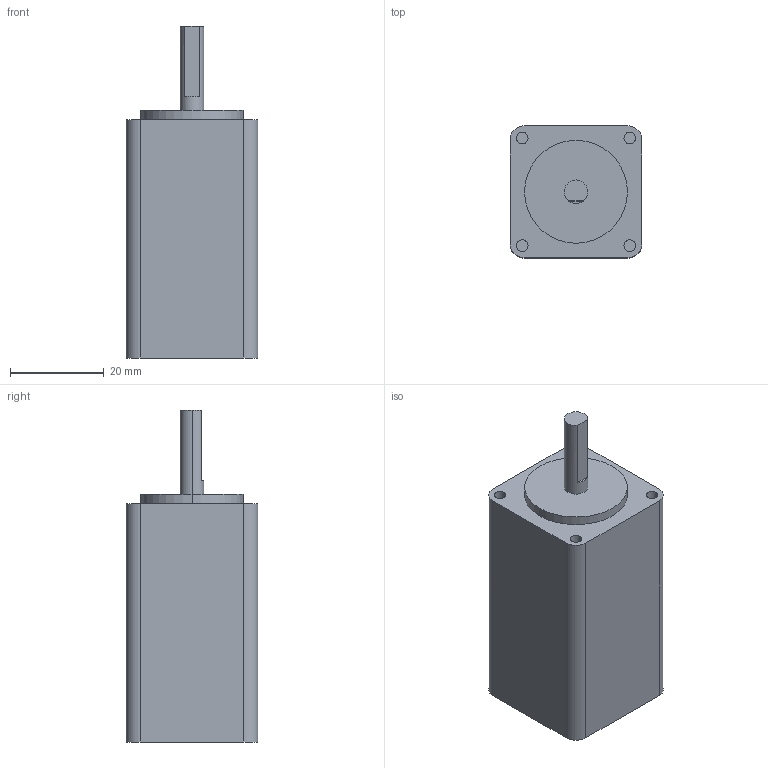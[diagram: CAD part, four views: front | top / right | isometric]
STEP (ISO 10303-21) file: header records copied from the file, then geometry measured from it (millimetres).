
FILE_DESCRIPTION (( 'STEP AP214' ), '1' );
FILE_NAME ('28CM013.STEP', '2018-06-04T12:06:21', ( 'Microsoft' ), ( 'China' ), 'SwSTEP 2.0', 'SolidWorks 2011', '' );
FILE_SCHEMA (( 'AUTOMOTIVE_DESIGN' ));
Length unit declared in the file: millimetre
Products named in the file (1): 28CM013
Bounding box: 28.2 x 28.2 x 71 mm (x, y, z)
Volume: 41212.5 mm3; surface area: 7561.4 mm2
Topology: 1 solids, 1 shells, 30 faces, 66 edges, 44 vertices
Faces by surface type: cylinder 16, plane 14
Entity records: 878 total; most frequent: DIRECTION 162, CARTESIAN_POINT 141, ORIENTED_EDGE 132, EDGE_CURVE 66, AXIS2_PLACEMENT_3D 65, VERTEX_POINT 44, EDGE_LOOP 36, CIRCLE 34
